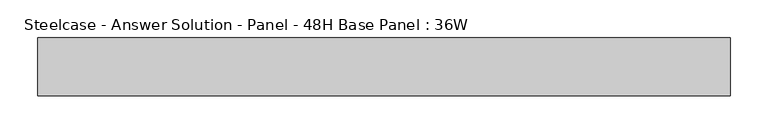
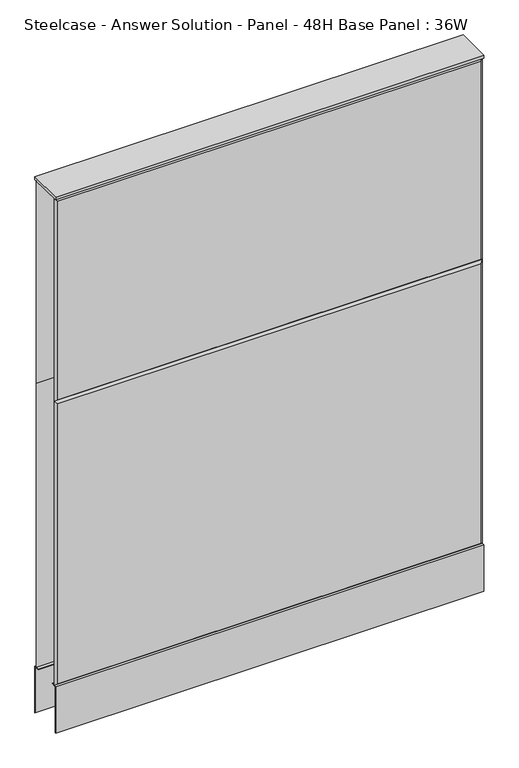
"""IFC4 building model written with IfcOpenShell, lengths in millimetres: furniture geometry, Steelcase - Answer Solution - Panel - 48H Base Panel : 36W."""

import ifcopenshell
import ifcopenshell.guid

model = None  # the IFC model being written
_history = None  # IfcOwnerHistory: only IFC2X3 demands one
_inside = {}  # id of a spatial element -> (the spatial element, [elements in it])
_under = {}  # id of a project, library or spatial element -> (it, [spatial elements below it])
_declared = {}  # id of a project -> (the project, [libraries it declares])
_typed = {}  # id of a type object -> (the type object, [elements of that type])
_made_of = {}  # id of a material, layer set ... -> (it, [elements and type objects made of it])


def new_model(schema):
    """Start an empty IFC model of exactly this schema.

    Asked for "IFC4X3", IfcOpenShell would pick the latest addendum, in which some entities
    have other attributes; the version numbers below select the first issue.
    IFC2X3 requires an IfcOwnerHistory on every rooted entity: one is made here for all.
    """
    global model, _history
    if schema == "IFC4X3":
        model = ifcopenshell.file(schema_version=(4, 3, 0, 0))
    else:
        model = ifcopenshell.file(schema=schema)
    _inside.clear()
    _under.clear()
    _declared.clear()
    _typed.clear()
    _made_of.clear()
    _history = None
    if model.schema == "IFC2X3":
        org = make("IfcOrganization", Name="unknown")
        user = make(
            "IfcPersonAndOrganization",
            ThePerson=make("IfcPerson", FamilyName="unknown"),
            TheOrganization=org,
        )
        app = make(
            "IfcApplication",
            ApplicationDeveloper=org,
            Version="unknown",
            ApplicationFullName="unknown",
            ApplicationIdentifier="unknown",
        )
        _history = make(
            "IfcOwnerHistory",
            OwningUser=user,
            OwningApplication=app,
            ChangeAction="ADDED",
            CreationDate=0,
        )
    return model


def make(cls, **values):
    """One entity of the class cls with the attributes given. An attribute that is None is left unset."""
    return model.create_entity(
        cls, **{name: value for name, value in values.items() if value is not None}
    )


def rooted(cls, **values):
    """An entity with a GlobalId (a new one), such as an element, a storey or a relation."""
    return make(cls, GlobalId=ifcopenshell.guid.new(), OwnerHistory=_history, **values)


def si_unit(unit_type, name, prefix=None):
    """IfcSIUnit, for example si_unit("LENGTHUNIT", "METRE", prefix="MILLI")."""
    return make("IfcSIUnit", UnitType=unit_type, Prefix=prefix, Name=name)


def assignment(units):
    """IfcUnitAssignment: the units of a project."""
    return None if units is None else make("IfcUnitAssignment", Units=units)


def point(xyz):
    """IfcCartesianPoint."""
    return None if xyz is None else make("IfcCartesianPoint", Coordinates=xyz)


def direction(xyz):
    """IfcDirection."""
    return None if xyz is None else make("IfcDirection", DirectionRatios=xyz)


def frame(location, z_axis=None, x_axis=None):
    """IfcAxis2Placement3D, a coordinate frame: its origin and axes. An axis left out is left unset."""
    return make(
        "IfcAxis2Placement3D",
        Location=point(location),
        Axis=direction(z_axis),
        RefDirection=direction(x_axis),
    )


def origin():
    """The frame at (0, 0, 0) with its axes left unset."""
    return frame((0.0, 0.0, 0.0))


def place(relative_to, where):
    """IfcLocalPlacement: puts the frame where relative to a parent placement (None: the world)."""
    return make(
        "IfcLocalPlacement", PlacementRelTo=relative_to, RelativePlacement=where
    )


def context(
    kind, dimensions, precision=None, world=None, true_north=None, identifier=None
):
    """IfcGeometricRepresentationContext, for example the 3D "Model" context."""
    return make(
        "IfcGeometricRepresentationContext",
        ContextIdentifier=identifier,
        ContextType=kind,
        CoordinateSpaceDimension=dimensions,
        Precision=precision,
        WorldCoordinateSystem=world,
        TrueNorth=true_north,
    )


def project(units=None, contexts=None):
    """IfcProject with its units and contexts."""
    return rooted(
        "IfcProject",
        Name="project",
        RepresentationContexts=contexts,
        UnitsInContext=assignment(units),
    )


def spatial(cls, under=None, at=None, **own):
    """A site, building, storey or space (cls), placed at a placement, below another one or the project."""
    s = rooted(cls, ObjectPlacement=at, **own)
    if under is not None:
        _under.setdefault(under.id(), (under, []))[1].append(s)
    return s


def polyline(points):
    """IfcPolyline through the points."""
    return make("IfcPolyline", Points=[point(p) for p in points])


def outline(outer, holes=None, kind="AREA"):
    """IfcArbitraryClosedProfileDef: a profile drawn as a closed curve; with holes, ...WithVoids."""
    if holes is None:
        return make("IfcArbitraryClosedProfileDef", ProfileType=kind, OuterCurve=outer)
    return make(
        "IfcArbitraryProfileDefWithVoids",
        ProfileType=kind,
        OuterCurve=outer,
        InnerCurves=holes,
    )


def extrude(swept, where, along, depth):
    """IfcExtrudedAreaSolid: the profile swept, set in the frame where, extruded along a direction by depth."""
    return make(
        "IfcExtrudedAreaSolid",
        SweptArea=swept,
        Position=where,
        ExtrudedDirection=direction(along),
        Depth=depth,
    )


def faces_of(points, faces, orient=None, outer=None):
    """IfcFace entities. A face is a list of loops; a loop is a list of indices into points, from 0.

    orient and outer hold one flag for each loop. By default every Orientation is true, the
    first loop of a face is its IfcFaceOuterBound and the others are IfcFaceBound.
    """
    made = []
    for i, loops in enumerate(faces):
        bounds = []
        for j, loop in enumerate(loops):
            is_outer = j == 0 if outer is None else outer[i][j]
            bounds.append(
                make(
                    "IfcFaceOuterBound" if is_outer else "IfcFaceBound",
                    Bound=make("IfcPolyLoop", Polygon=[points[k] for k in loop]),
                    Orientation=True if orient is None else orient[i][j],
                )
            )
        made.append(make("IfcFace", Bounds=bounds))
    return made


def faceted_brep(points, faces, orient=None, outer=None, voids=None):
    """IfcFacetedBrep: a solid bounded by flat faces; with voids (closed shells), ...WithVoids."""
    shared = [point(p) for p in points]
    hull = make("IfcClosedShell", CfsFaces=faces_of(shared, faces, orient, outer))
    if voids is None:
        return make("IfcFacetedBrep", Outer=hull)
    return make(
        "IfcFacetedBrepWithVoids",
        Outer=hull,
        Voids=[
            make(cls, CfsFaces=faces_of(shared, fs, o, b)) for cls, fs, o, b in voids
        ],
    )


def shape(context_of_items, identifier, shape_type, items):
    """IfcShapeRepresentation: the items that make up one representation, for example the "Body"."""
    return make(
        "IfcShapeRepresentation",
        ContextOfItems=context_of_items,
        RepresentationIdentifier=identifier,
        RepresentationType=shape_type,
        Items=items,
    )


def source(mapping_origin, context_of_items, identifier, shape_type, items):
    """IfcRepresentationMap: a shape defined once, which mapped items show again and again."""
    return make(
        "IfcRepresentationMap",
        MappingOrigin=mapping_origin,
        MappedRepresentation=shape(context_of_items, identifier, shape_type, items),
    )


def transform(
    local_origin,
    x_axis=None,
    y_axis=None,
    z_axis=None,
    scale=None,
    scale2=None,
    scale3=None,
    uniform=True,
):
    """IfcCartesianTransformationOperator3D, or its non-uniform kind. x_axis, y_axis, z_axis: its Axis1, 2, 3."""
    if uniform:
        return make(
            "IfcCartesianTransformationOperator3D",
            Axis1=direction(x_axis),
            Axis2=direction(y_axis),
            LocalOrigin=point(local_origin),
            Scale=scale,
            Axis3=direction(z_axis),
        )
    return make(
        "IfcCartesianTransformationOperator3DnonUniform",
        Axis1=direction(x_axis),
        Axis2=direction(y_axis),
        LocalOrigin=point(local_origin),
        Scale=scale,
        Axis3=direction(z_axis),
        Scale2=scale2,
        Scale3=scale3,
    )


def mapped(mapping_source, mapping_target):
    """IfcMappedItem: shows the shape of a source again, moved by a transform."""
    return make(
        "IfcMappedItem", MappingSource=mapping_source, MappingTarget=mapping_target
    )


def made_of(thing, what):
    """Note that an element or type object is made of a material, layer set ...; save() writes the relation."""
    if what is not None:
        _made_of.setdefault(what.id(), (what, []))[1].append(thing)
    return thing


def element(
    cls,
    number,
    at=None,
    inside=None,
    cuts=None,
    type_object=None,
    material=None,
    context=None,
    identifier="Body",
    shape_type=None,
    held_by="IfcProductDefinitionShape",
    body=None,
    shapes=None,
    **own,
):
    """One element of the class cls, such as IfcWall. Its Tag is "e" and its number.

    at: its placement. inside: the storey or other place that contains it. cuts: it is an
    opening in that element (IfcRelVoidsElement). A single representation is given by context,
    identifier, shape_type and body (its items); several are given by shapes. held_by: the class
    of the entity that holds the representations. save() writes the other relations.
    """
    e = rooted(cls, Tag="e%d" % number, ObjectPlacement=at, **own)
    if body is not None:
        shapes = [shape(context, identifier, shape_type, body)]
    if shapes is not None:
        e.Representation = make(held_by, Representations=shapes)
    if inside is not None:
        _inside.setdefault(inside.id(), (inside, []))[1].append(e)
    if cuts is not None:
        rooted(
            "IfcRelVoidsElement", RelatingBuildingElement=cuts, RelatedOpeningElement=e
        )
    if type_object is not None:
        _typed.setdefault(type_object.id(), (type_object, []))[1].append(e)
    return made_of(e, material)


def aggregate(whole, parts):
    """IfcRelAggregates: a whole, such as a stair, and the parts it consists of."""
    return rooted("IfcRelAggregates", RelatingObject=whole, RelatedObjects=parts)


def save(model, path):
    """Write the relations noted so far, then the file.

    IfcRelAggregates (storeys below a building ...), IfcRelContainedInSpatialStructure (elements
    in a storey), IfcRelDefinesByType, IfcRelAssociatesMaterial and IfcRelDeclares: one each for
    every whole, place, type object, material and project.
    """
    for whole, parts in _under.values():
        aggregate(whole, parts)
    for where, things in _inside.values():
        rooted(
            "IfcRelContainedInSpatialStructure",
            RelatedElements=things,
            RelatingStructure=where,
        )
    for kind, things in _typed.values():
        rooted("IfcRelDefinesByType", RelatedObjects=things, RelatingType=kind)
    for what, things in _made_of.values():
        rooted("IfcRelAssociatesMaterial", RelatedObjects=things, RelatingMaterial=what)
    for by, libraries in _declared.values():
        rooted("IfcRelDeclares", RelatingContext=by, RelatedDefinitions=libraries)
    model.write(path)


def steelcase_answer_solution_panel_48h_base_panel_36w_4aefc7d7(model_context):
    return source(origin(), model_context, "Body", "SolidModel", [
        faceted_brep([(-452.374, 38.1635011, 1214.374), (452.374, 38.1635011, 1214.374), (452.374, 38.1635011, 766.826), (-452.374, 38.1635011, 766.826), (-457.2, 33.3375011, 1219.2), (-457.2, 33.3375011, 762.0), (457.2, 33.3375011, 762.0), (457.2, 33.3375011, 1219.2)], [[[0, 1, 2, 3]], [[4, 5, 6, 7]], [[4, 7, 1, 0]], [[7, 6, 2, 1]], [[6, 5, 3, 2]], [[5, 4, 0, 3]]]),
        faceted_brep([(-452.374, 38.1635011, 757.174), (452.374, 38.1635011, 757.174), (452.374, 38.1635011, 125.476), (-452.374, 38.1635011, 125.476), (-457.2, 33.3375011, 762.0), (-457.2, 33.3375011, 120.65), (457.2, 33.3375011, 120.65), (457.2, 33.3375011, 762.0)], [[[0, 1, 2, 3]], [[4, 5, 6, 7]], [[4, 7, 1, 0]], [[7, 6, 2, 1]], [[6, 5, 3, 2]], [[5, 4, 0, 3]]]),
        faceted_brep([(452.374, -38.1635011, 1214.374), (-452.374, -38.1635011, 1214.374), (-452.374, -38.1635011, 766.826), (452.374, -38.1635011, 766.826), (457.2, -33.3375011, 1219.2), (457.2, -33.3375011, 762.0), (-457.2, -33.3375011, 762.0), (-457.2, -33.3375011, 1219.2)], [[[0, 1, 2, 3]], [[4, 5, 6, 7]], [[4, 7, 1, 0]], [[7, 6, 2, 1]], [[6, 5, 3, 2]], [[5, 4, 0, 3]]]),
        faceted_brep([(452.374, -38.1635011, 757.174), (-452.374, -38.1635011, 757.174), (-452.374, -38.1635011, 125.476), (452.374, -38.1635011, 125.476), (457.2, -33.3375011, 762.0), (457.2, -33.3375011, 120.65), (-457.2, -33.3375011, 120.65), (-457.2, -33.3375011, 762.0)], [[[0, 1, 2, 3]], [[4, 5, 6, 7]], [[4, 7, 1, 0]], [[7, 6, 2, 1]], [[6, 5, 3, 2]], [[5, 4, 0, 3]]]),
        extrude(outline(polyline([(457.2, 38.1000194), (457.2, -38.1000194), (-457.2, -38.1000194), (-457.2, 38.1000194), (457.2, 38.1000194)])), frame((0.0, 0.0, 1219.2), z_axis=(0.0, 0.0, 1.0), x_axis=(1.0, 0.0, 0.0)), (0.0, 0.0, 1.0), 6.35),
        extrude(outline(polyline([(25.4000011, 119.8575157), (25.4000011, 120.65), (38.1000194, 120.65), (38.1000194, 15.494), (37.3075215, 15.494), (37.3075215, 119.8575157), (25.4000011, 119.8575157)])), frame((-457.2, 0.0, 0.0), z_axis=(1.0, 0.0, 0.0), x_axis=(0.0, 1.0, 0.0)), (0.0, 0.0, 1.0), 914.4),
        extrude(outline(polyline([(-25.4000011, 119.8575157), (-37.3075215, 119.8575157), (-37.3075215, 15.494), (-38.1000194, 15.494), (-38.1000194, 120.65), (-25.4000011, 120.65), (-25.4000011, 119.8575157)])), frame((-457.2, 0.0, 0.0), z_axis=(1.0, 0.0, 0.0), x_axis=(0.0, 1.0, 0.0)), (0.0, 0.0, 1.0), 914.4),
    ])


if __name__ == "__main__":
    model = new_model("IFC4")
    model_context = context("Model", 3, world=origin())
    ifc_project = project(units=[si_unit("LENGTHUNIT", "METRE", prefix="MILLI")], contexts=[model_context])
    site = spatial("IfcSite", under=ifc_project)
    building = spatial("IfcBuilding", under=site)
    placement = place(None, origin())
    steelcase_answer_solution_panel_48h_base_panel_36w_shape = steelcase_answer_solution_panel_48h_base_panel_36w_4aefc7d7(model_context)
    element("IfcFurniture", 1, ObjectType="Steelcase - Answer Solution - Panel - 48H Base Panel : 36W", at=placement, inside=building, context=model_context, shape_type="MappedRepresentation", body=[
        mapped(steelcase_answer_solution_panel_48h_base_panel_36w_shape, transform((0.0, 0.0, 0.0), x_axis=(1.0, 0.0, 0.0), y_axis=(0.0, 1.0, 0.0), z_axis=(0.0, 0.0, 1.0))),
    ])
    save(model, "model.ifc")
